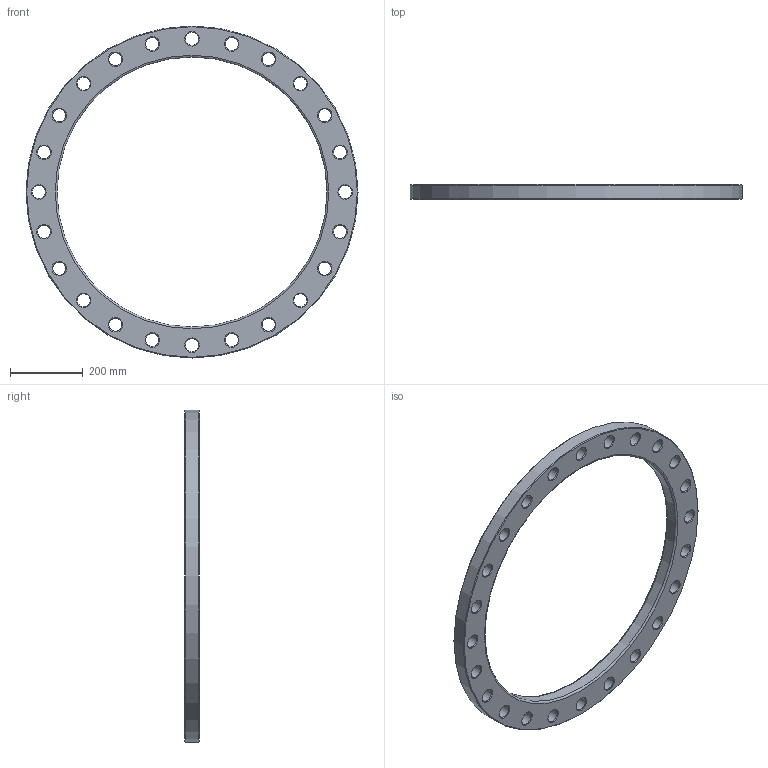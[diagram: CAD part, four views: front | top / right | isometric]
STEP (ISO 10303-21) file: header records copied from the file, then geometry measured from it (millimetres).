
FILE_DESCRIPTION(/* description */ ('Unknown'),/* implementation_level */ '2;1');
FILE_NAME(/* name */ 'FZ710C',/* time_stamp */ '2021-03-15T12:26:36+01:00',/* author */ ('Unknown'),/* organization */ ('Unknown'),/* preprocessor_version */ 'ST-DEVELOPER v16.7',/* originating_system */ 'Solid Edge',/* authorisation */ 'Unknown');
FILE_SCHEMA (('AUTOMOTIVE_DESIGN {1 0 10303 214 3 1 1}'));
Length unit declared in the file: millimetre
Products named in the file (1): FZ710C
Bounding box: 910 x 40 x 910 mm (x, y, z)
Volume: 7787307.9 mm3; surface area: 684893.7 mm2
Topology: 1 solids, 1 shells, 80 faces, 254 edges, 176 vertices
Faces by surface type: cone 50, cylinder 26, plane 2, torus 2
Full cylindrical faces by diameter (mm): 36 x24, 740 x1, 910 x1
Entity records: 1974 total; most frequent: DIRECTION 370, CARTESIAN_POINT 289, ORIENTED_EDGE 208, EDGE_LOOP 208, FACE_BOUND 208, AXIS2_PLACEMENT_3D 185, EDGE_CURVE 104, VERTEX_POINT 104
